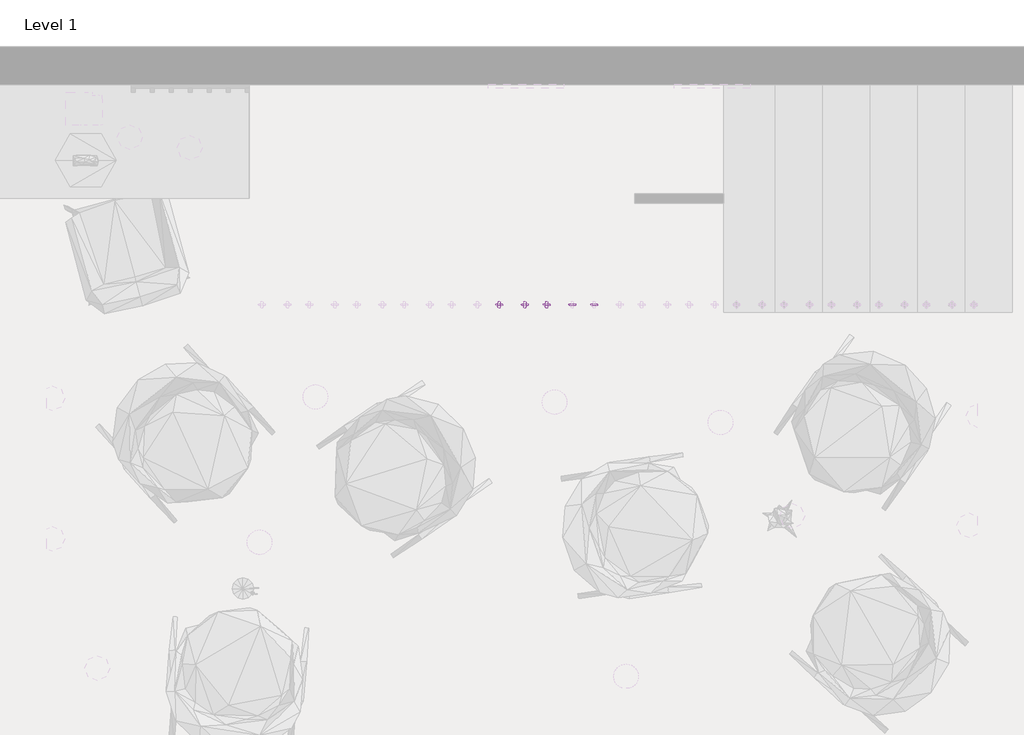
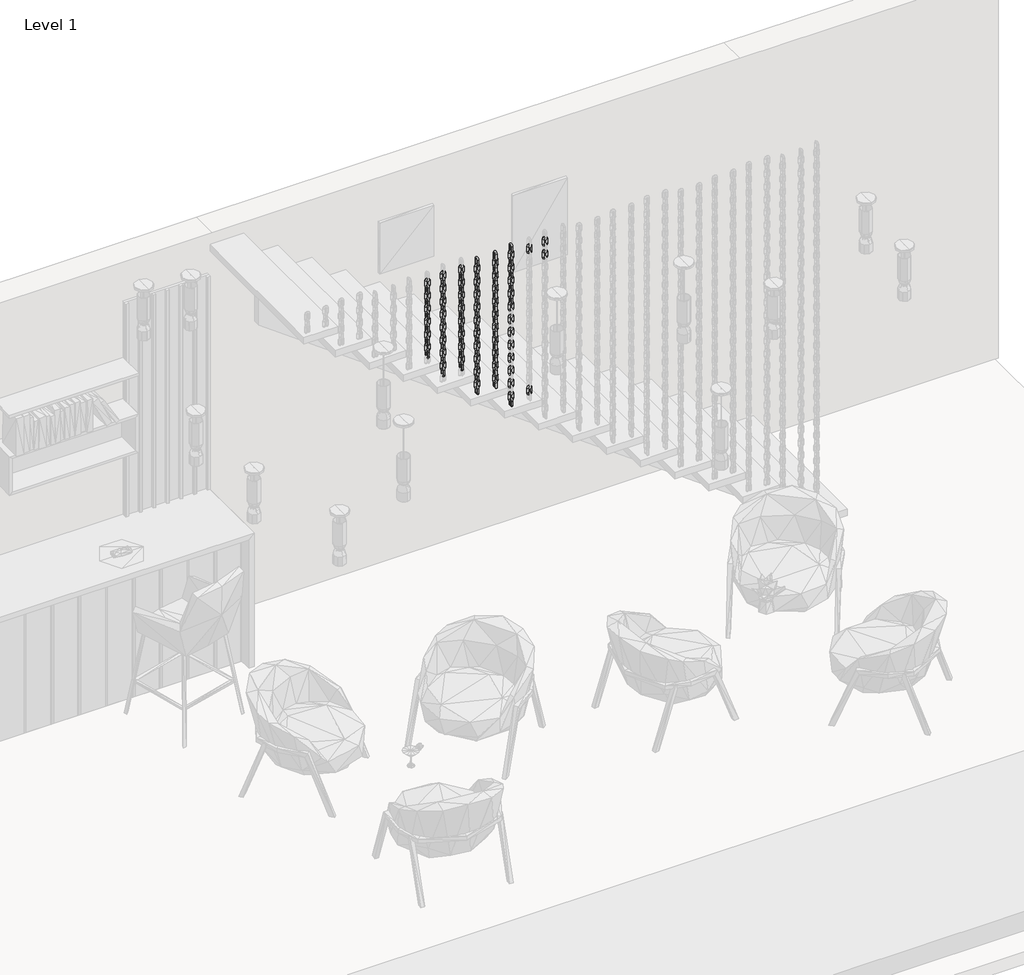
# One storey, part 5 of 12: 108 proxies.
"""IFC4 building model written with IfcOpenShell, lengths in millimetres."""

from ifc_helpers import new_model, si_unit, origin, place, context, project, spatial, transform, mapped, element, save
from components import family1_family1_50133a43, family1_family1_d3af85bb

model = new_model("IFC4")

# Units and contexts
model_context = context("Model", 3, world=origin())
ifc_project = project(units=[si_unit("LENGTHUNIT", "METRE", prefix="MILLI")], contexts=[model_context])

# Site, building, storey
site = spatial("IfcSite", under=ifc_project)
building = spatial("IfcBuilding", under=site)
storey = spatial("IfcBuildingStorey", under=building, Name="Level 1", Elevation=0.0)

# Proxies
placement = place(None, origin())
family1_family1_shape = family1_family1_50133a43(model_context)
element("IfcBuildingElementProxy", 1, Name="Family1 : Family1", ObjectType="Family1 : Family1", at=placement, inside=storey, context=model_context, shape_type="MappedRepresentation", body=[
    mapped(family1_family1_shape, transform((12615.1232124, 1139.760891, 1356.36245), x_axis=(-0.03315618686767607, 0.0, 0.9994501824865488), y_axis=(-0.9994501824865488, 0.0, -0.03315618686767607), z_axis=(0.0, -1.0, 0.0))),
])
element("IfcBuildingElementProxy", 2, Name="Family1 : Family1", ObjectType="Family1 : Family1", at=placement, inside=storey, context=model_context, shape_type="MappedRepresentation", body=[
    mapped(family1_family1_shape, transform((12615.1232124, 1139.760891, 1456.36245), x_axis=(-0.03315618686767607, 0.0, 0.9994501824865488), y_axis=(-0.9994501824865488, 0.0, -0.03315618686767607), z_axis=(0.0, -1.0, 0.0))),
])
element("IfcBuildingElementProxy", 3, Name="Family1 : Family1", ObjectType="Family1 : Family1", at=placement, inside=storey, context=model_context, shape_type="MappedRepresentation", body=[
    mapped(family1_family1_shape, transform((12615.1232124, 1139.760891, 1556.36245), x_axis=(-0.03315618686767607, 0.0, 0.9994501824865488), y_axis=(-0.9994501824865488, 0.0, -0.03315618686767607), z_axis=(0.0, -1.0, 0.0))),
])
element("IfcBuildingElementProxy", 4, Name="Family1 : Family1", ObjectType="Family1 : Family1", at=placement, inside=storey, context=model_context, shape_type="MappedRepresentation", body=[
    mapped(family1_family1_shape, transform((12615.1232124, 1139.760891, 556.36245), x_axis=(-0.03315618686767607, 0.0, 0.9994501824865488), y_axis=(-0.9994501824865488, 0.0, -0.03315618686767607), z_axis=(0.0, -1.0, 0.0))),
])
element("IfcBuildingElementProxy", 5, Name="Family1 : Family1", ObjectType="Family1 : Family1", at=placement, inside=storey, context=model_context, shape_type="MappedRepresentation", body=[
    mapped(family1_family1_shape, transform((12615.1232124, 1139.760891, 1656.36245), x_axis=(-0.03315618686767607, 0.0, 0.9994501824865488), y_axis=(-0.9994501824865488, 0.0, -0.03315618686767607), z_axis=(0.0, -1.0, 0.0))),
])
element("IfcBuildingElementProxy", 6, Name="Family1 : Family1", ObjectType="Family1 : Family1", at=placement, inside=storey, context=model_context, shape_type="MappedRepresentation", body=[
    mapped(family1_family1_shape, transform((12615.1232124, 1139.760891, 1756.36245), x_axis=(-0.03315618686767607, 0.0, 0.9994501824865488), y_axis=(-0.9994501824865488, 0.0, -0.03315618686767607), z_axis=(0.0, -1.0, 0.0))),
])
element("IfcBuildingElementProxy", 7, Name="Family1 : Family1", ObjectType="Family1 : Family1", at=placement, inside=storey, context=model_context, shape_type="MappedRepresentation", body=[
    mapped(family1_family1_shape, transform((12500.1232124, 1139.760891, 838.7153912), x_axis=(-0.033156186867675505, 0.0, 0.9994501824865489), y_axis=(-0.9994501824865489, 0.0, -0.033156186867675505), z_axis=(0.0, -1.0, 0.0))),
])
element("IfcBuildingElementProxy", 8, Name="Family1 : Family1", ObjectType="Family1 : Family1", at=placement, inside=storey, context=model_context, shape_type="MappedRepresentation", body=[
    mapped(family1_family1_shape, transform((12500.1232124, 1139.760891, 938.7153912), x_axis=(-0.033156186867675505, 0.0, 0.9994501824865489), y_axis=(-0.9994501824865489, 0.0, -0.033156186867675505), z_axis=(0.0, -1.0, 0.0))),
])
element("IfcBuildingElementProxy", 9, Name="Family1 : Family1", ObjectType="Family1 : Family1", at=placement, inside=storey, context=model_context, shape_type="MappedRepresentation", body=[
    mapped(family1_family1_shape, transform((12500.1232124, 1139.760891, 1038.7153912), x_axis=(-0.033156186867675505, 0.0, 0.9994501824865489), y_axis=(-0.9994501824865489, 0.0, -0.033156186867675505), z_axis=(0.0, -1.0, 0.0))),
])
element("IfcBuildingElementProxy", 10, Name="Family1 : Family1", ObjectType="Family1 : Family1", at=placement, inside=storey, context=model_context, shape_type="MappedRepresentation", body=[
    mapped(family1_family1_shape, transform((12500.1232124, 1139.760891, 1138.7153912), x_axis=(-0.033156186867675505, 0.0, 0.9994501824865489), y_axis=(-0.9994501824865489, 0.0, -0.033156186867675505), z_axis=(0.0, -1.0, 0.0))),
])
element("IfcBuildingElementProxy", 11, Name="Family1 : Family1", ObjectType="Family1 : Family1", at=placement, inside=storey, context=model_context, shape_type="MappedRepresentation", body=[
    mapped(family1_family1_shape, transform((12500.1232124, 1139.760891, 1238.7153912), x_axis=(-0.033156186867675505, 0.0, 0.9994501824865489), y_axis=(-0.9994501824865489, 0.0, -0.033156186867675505), z_axis=(0.0, -1.0, 0.0))),
])
element("IfcBuildingElementProxy", 12, Name="Family1 : Family1", ObjectType="Family1 : Family1", at=placement, inside=storey, context=model_context, shape_type="MappedRepresentation", body=[
    mapped(family1_family1_shape, transform((12500.1232124, 1139.760891, 1338.7153912), x_axis=(-0.033156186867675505, 0.0, 0.9994501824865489), y_axis=(-0.9994501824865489, 0.0, -0.033156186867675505), z_axis=(0.0, -1.0, 0.0))),
])
element("IfcBuildingElementProxy", 13, Name="Family1 : Family1", ObjectType="Family1 : Family1", at=placement, inside=storey, context=model_context, shape_type="MappedRepresentation", body=[
    mapped(family1_family1_shape, transform((12500.1232124, 1139.760891, 1438.7153912), x_axis=(-0.033156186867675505, 0.0, 0.9994501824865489), y_axis=(-0.9994501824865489, 0.0, -0.033156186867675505), z_axis=(0.0, -1.0, 0.0))),
])
element("IfcBuildingElementProxy", 14, Name="Family1 : Family1", ObjectType="Family1 : Family1", at=placement, inside=storey, context=model_context, shape_type="MappedRepresentation", body=[
    mapped(family1_family1_shape, transform((12500.1232124, 1139.760891, 1538.7153912), x_axis=(-0.03315618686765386, 0.0, 0.9994501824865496), y_axis=(-0.9994501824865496, 0.0, -0.03315618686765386), z_axis=(0.0, -1.0, 0.0))),
])
element("IfcBuildingElementProxy", 15, Name="Family1 : Family1", ObjectType="Family1 : Family1", at=placement, inside=storey, context=model_context, shape_type="MappedRepresentation", body=[
    mapped(family1_family1_shape, transform((12500.1232124, 1139.760891, 1638.7153912), x_axis=(-0.033156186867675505, 0.0, 0.9994501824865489), y_axis=(-0.9994501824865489, 0.0, -0.033156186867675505), z_axis=(0.0, -1.0, 0.0))),
])
element("IfcBuildingElementProxy", 16, Name="Family1 : Family1", ObjectType="Family1 : Family1", at=placement, inside=storey, context=model_context, shape_type="MappedRepresentation", body=[
    mapped(family1_family1_shape, transform((12365.1232124, 1139.760891, 838.7153912), x_axis=(-0.033156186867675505, 0.0, 0.9994501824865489), y_axis=(-0.9994501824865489, 0.0, -0.033156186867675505), z_axis=(0.0, -1.0, 0.0))),
])
element("IfcBuildingElementProxy", 17, Name="Family1 : Family1", ObjectType="Family1 : Family1", at=placement, inside=storey, context=model_context, shape_type="MappedRepresentation", body=[
    mapped(family1_family1_shape, transform((12365.1232124, 1139.760891, 938.7153912), x_axis=(-0.033156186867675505, 0.0, 0.9994501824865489), y_axis=(-0.9994501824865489, 0.0, -0.033156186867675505), z_axis=(0.0, -1.0, 0.0))),
])
element("IfcBuildingElementProxy", 18, Name="Family1 : Family1", ObjectType="Family1 : Family1", at=placement, inside=storey, context=model_context, shape_type="MappedRepresentation", body=[
    mapped(family1_family1_shape, transform((12365.1232124, 1139.760891, 1038.7153912), x_axis=(-0.033156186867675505, 0.0, 0.9994501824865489), y_axis=(-0.9994501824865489, 0.0, -0.033156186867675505), z_axis=(0.0, -1.0, 0.0))),
])
element("IfcBuildingElementProxy", 19, Name="Family1 : Family1", ObjectType="Family1 : Family1", at=placement, inside=storey, context=model_context, shape_type="MappedRepresentation", body=[
    mapped(family1_family1_shape, transform((12365.1232124, 1139.760891, 1138.7153912), x_axis=(-0.033156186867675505, 0.0, 0.9994501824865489), y_axis=(-0.9994501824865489, 0.0, -0.033156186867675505), z_axis=(0.0, -1.0, 0.0))),
])
element("IfcBuildingElementProxy", 20, Name="Family1 : Family1", ObjectType="Family1 : Family1", at=placement, inside=storey, context=model_context, shape_type="MappedRepresentation", body=[
    mapped(family1_family1_shape, transform((12365.1232124, 1139.760891, 1238.7153912), x_axis=(-0.033156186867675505, 0.0, 0.9994501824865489), y_axis=(-0.9994501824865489, 0.0, -0.033156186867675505), z_axis=(0.0, -1.0, 0.0))),
])
element("IfcBuildingElementProxy", 21, Name="Family1 : Family1", ObjectType="Family1 : Family1", at=placement, inside=storey, context=model_context, shape_type="MappedRepresentation", body=[
    mapped(family1_family1_shape, transform((12365.1232124, 1139.760891, 1338.7153912), x_axis=(-0.033156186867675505, 0.0, 0.9994501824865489), y_axis=(-0.9994501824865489, 0.0, -0.033156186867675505), z_axis=(0.0, -1.0, 0.0))),
])
element("IfcBuildingElementProxy", 22, Name="Family1 : Family1", ObjectType="Family1 : Family1", at=placement, inside=storey, context=model_context, shape_type="MappedRepresentation", body=[
    mapped(family1_family1_shape, transform((12365.1232124, 1139.760891, 1438.7153912), x_axis=(-0.033156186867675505, 0.0, 0.9994501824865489), y_axis=(-0.9994501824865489, 0.0, -0.033156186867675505), z_axis=(0.0, -1.0, 0.0))),
])
element("IfcBuildingElementProxy", 23, Name="Family1 : Family1", ObjectType="Family1 : Family1", at=placement, inside=storey, context=model_context, shape_type="MappedRepresentation", body=[
    mapped(family1_family1_shape, transform((12365.1232124, 1139.760891, 1538.7153912), x_axis=(-0.03315618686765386, 0.0, 0.9994501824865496), y_axis=(-0.9994501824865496, 0.0, -0.03315618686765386), z_axis=(0.0, -1.0, 0.0))),
])
element("IfcBuildingElementProxy", 24, Name="Family1 : Family1", ObjectType="Family1 : Family1", at=placement, inside=storey, context=model_context, shape_type="MappedRepresentation", body=[
    mapped(family1_family1_shape, transform((12365.1232124, 1139.760891, 1638.7153912), x_axis=(-0.033156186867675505, 0.0, 0.9994501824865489), y_axis=(-0.9994501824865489, 0.0, -0.033156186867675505), z_axis=(0.0, -1.0, 0.0))),
])
element("IfcBuildingElementProxy", 25, Name="Family1 : Family1", ObjectType="Family1 : Family1", at=placement, inside=storey, context=model_context, shape_type="MappedRepresentation", body=[
    mapped(family1_family1_shape, transform((12250.1232124, 1139.760891, 971.0683324), x_axis=(-0.033156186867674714, 0.0, 0.9994501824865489), y_axis=(-0.9994501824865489, 0.0, -0.033156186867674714), z_axis=(0.0, -1.0, 0.0))),
])
element("IfcBuildingElementProxy", 26, Name="Family1 : Family1", ObjectType="Family1 : Family1", at=placement, inside=storey, context=model_context, shape_type="MappedRepresentation", body=[
    mapped(family1_family1_shape, transform((12250.1232124, 1139.760891, 1071.0683324), x_axis=(-0.033156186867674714, 0.0, 0.9994501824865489), y_axis=(-0.9994501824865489, 0.0, -0.033156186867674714), z_axis=(0.0, -1.0, 0.0))),
])
element("IfcBuildingElementProxy", 27, Name="Family1 : Family1", ObjectType="Family1 : Family1", at=placement, inside=storey, context=model_context, shape_type="MappedRepresentation", body=[
    mapped(family1_family1_shape, transform((12250.1232124, 1139.760891, 1171.0683324), x_axis=(-0.033156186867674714, 0.0, 0.9994501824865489), y_axis=(-0.9994501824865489, 0.0, -0.033156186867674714), z_axis=(0.0, -1.0, 0.0))),
])
element("IfcBuildingElementProxy", 28, Name="Family1 : Family1", ObjectType="Family1 : Family1", at=placement, inside=storey, context=model_context, shape_type="MappedRepresentation", body=[
    mapped(family1_family1_shape, transform((12250.1232124, 1139.760891, 1271.0683324), x_axis=(-0.033156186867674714, 0.0, 0.9994501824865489), y_axis=(-0.9994501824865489, 0.0, -0.033156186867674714), z_axis=(0.0, -1.0, 0.0))),
])
element("IfcBuildingElementProxy", 29, Name="Family1 : Family1", ObjectType="Family1 : Family1", at=placement, inside=storey, context=model_context, shape_type="MappedRepresentation", body=[
    mapped(family1_family1_shape, transform((12250.1232124, 1139.760891, 1371.0683324), x_axis=(-0.033156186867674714, 0.0, 0.9994501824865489), y_axis=(-0.9994501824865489, 0.0, -0.033156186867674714), z_axis=(0.0, -1.0, 0.0))),
])
element("IfcBuildingElementProxy", 30, Name="Family1 : Family1", ObjectType="Family1 : Family1", at=placement, inside=storey, context=model_context, shape_type="MappedRepresentation", body=[
    mapped(family1_family1_shape, transform((12250.1232124, 1139.760891, 1471.0683324), x_axis=(-0.033156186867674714, 0.0, 0.9994501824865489), y_axis=(-0.9994501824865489, 0.0, -0.033156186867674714), z_axis=(0.0, -1.0, 0.0))),
])
element("IfcBuildingElementProxy", 31, Name="Family1 : Family1", ObjectType="Family1 : Family1", at=placement, inside=storey, context=model_context, shape_type="MappedRepresentation", body=[
    mapped(family1_family1_shape, transform((12250.1232124, 1139.760891, 1571.0683324), x_axis=(-0.03315618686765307, 0.0, 0.9994501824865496), y_axis=(-0.9994501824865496, 0.0, -0.03315618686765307), z_axis=(0.0, -1.0, 0.0))),
])
element("IfcBuildingElementProxy", 32, Name="Family1 : Family1", ObjectType="Family1 : Family1", at=placement, inside=storey, context=model_context, shape_type="MappedRepresentation", body=[
    mapped(family1_family1_shape, transform((12250.1232124, 1139.760891, 1671.0683324), x_axis=(-0.033156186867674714, 0.0, 0.9994501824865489), y_axis=(-0.9994501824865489, 0.0, -0.033156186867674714), z_axis=(0.0, -1.0, 0.0))),
])
element("IfcBuildingElementProxy", 33, Name="Family1 : Family1", ObjectType="Family1 : Family1", at=placement, inside=storey, context=model_context, shape_type="MappedRepresentation", body=[
    mapped(family1_family1_shape, transform((12115.1232124, 1139.760891, 971.0683324), x_axis=(-0.033156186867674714, 0.0, 0.9994501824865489), y_axis=(-0.9994501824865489, 0.0, -0.033156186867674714), z_axis=(0.0, -1.0, 0.0))),
])
element("IfcBuildingElementProxy", 34, Name="Family1 : Family1", ObjectType="Family1 : Family1", at=placement, inside=storey, context=model_context, shape_type="MappedRepresentation", body=[
    mapped(family1_family1_shape, transform((12115.1232124, 1139.760891, 1071.0683324), x_axis=(-0.033156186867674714, 0.0, 0.9994501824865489), y_axis=(-0.9994501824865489, 0.0, -0.033156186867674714), z_axis=(0.0, -1.0, 0.0))),
])
element("IfcBuildingElementProxy", 35, Name="Family1 : Family1", ObjectType="Family1 : Family1", at=placement, inside=storey, context=model_context, shape_type="MappedRepresentation", body=[
    mapped(family1_family1_shape, transform((12115.1232124, 1139.760891, 1171.0683324), x_axis=(-0.033156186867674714, 0.0, 0.9994501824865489), y_axis=(-0.9994501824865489, 0.0, -0.033156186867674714), z_axis=(0.0, -1.0, 0.0))),
])
element("IfcBuildingElementProxy", 36, Name="Family1 : Family1", ObjectType="Family1 : Family1", at=placement, inside=storey, context=model_context, shape_type="MappedRepresentation", body=[
    mapped(family1_family1_shape, transform((12115.1232124, 1139.760891, 1271.0683324), x_axis=(-0.033156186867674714, 0.0, 0.9994501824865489), y_axis=(-0.9994501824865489, 0.0, -0.033156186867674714), z_axis=(0.0, -1.0, 0.0))),
])
element("IfcBuildingElementProxy", 37, Name="Family1 : Family1", ObjectType="Family1 : Family1", at=placement, inside=storey, context=model_context, shape_type="MappedRepresentation", body=[
    mapped(family1_family1_shape, transform((12115.1232124, 1139.760891, 1371.0683324), x_axis=(-0.033156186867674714, 0.0, 0.9994501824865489), y_axis=(-0.9994501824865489, 0.0, -0.033156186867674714), z_axis=(0.0, -1.0, 0.0))),
])
element("IfcBuildingElementProxy", 38, Name="Family1 : Family1", ObjectType="Family1 : Family1", at=placement, inside=storey, context=model_context, shape_type="MappedRepresentation", body=[
    mapped(family1_family1_shape, transform((12115.1232124, 1139.760891, 1471.0683324), x_axis=(-0.033156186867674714, 0.0, 0.9994501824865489), y_axis=(-0.9994501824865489, 0.0, -0.033156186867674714), z_axis=(0.0, -1.0, 0.0))),
])
element("IfcBuildingElementProxy", 39, Name="Family1 : Family1", ObjectType="Family1 : Family1", at=placement, inside=storey, context=model_context, shape_type="MappedRepresentation", body=[
    mapped(family1_family1_shape, transform((12115.1232124, 1139.760891, 1571.0683324), x_axis=(-0.03315618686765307, 0.0, 0.9994501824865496), y_axis=(-0.9994501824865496, 0.0, -0.03315618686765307), z_axis=(0.0, -1.0, 0.0))),
])
element("IfcBuildingElementProxy", 40, Name="Family1 : Family1", ObjectType="Family1 : Family1", at=placement, inside=storey, context=model_context, shape_type="MappedRepresentation", body=[
    mapped(family1_family1_shape, transform((12115.1232124, 1139.760891, 1671.0683324), x_axis=(-0.033156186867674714, 0.0, 0.9994501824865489), y_axis=(-0.9994501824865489, 0.0, -0.033156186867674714), z_axis=(0.0, -1.0, 0.0))),
])
element("IfcBuildingElementProxy", 41, Name="Family1 : Family1", ObjectType="Family1 : Family1", at=placement, inside=storey, context=model_context, shape_type="MappedRepresentation", body=[
    mapped(family1_family1_shape, transform((12000.1232124, 1139.760891, 1153.4212736), x_axis=(-0.03315618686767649, 0.0, 0.9994501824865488), y_axis=(-0.9994501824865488, 0.0, -0.03315618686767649), z_axis=(0.0, -1.0, 0.0))),
])
element("IfcBuildingElementProxy", 42, Name="Family1 : Family1", ObjectType="Family1 : Family1", at=placement, inside=storey, context=model_context, shape_type="MappedRepresentation", body=[
    mapped(family1_family1_shape, transform((12000.1232124, 1139.760891, 1253.4212736), x_axis=(-0.03315618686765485, 0.0, 0.9994501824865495), y_axis=(-0.9994501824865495, 0.0, -0.03315618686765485), z_axis=(0.0, -1.0, 0.0))),
])
element("IfcBuildingElementProxy", 43, Name="Family1 : Family1", ObjectType="Family1 : Family1", at=placement, inside=storey, context=model_context, shape_type="MappedRepresentation", body=[
    mapped(family1_family1_shape, transform((12000.1232124, 1139.760891, 1353.4212736), x_axis=(-0.03315618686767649, 0.0, 0.9994501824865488), y_axis=(-0.9994501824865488, 0.0, -0.03315618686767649), z_axis=(0.0, -1.0, 0.0))),
])
element("IfcBuildingElementProxy", 44, Name="Family1 : Family1", ObjectType="Family1 : Family1", at=placement, inside=storey, context=model_context, shape_type="MappedRepresentation", body=[
    mapped(family1_family1_shape, transform((12000.1232124, 1139.760891, 1453.4212736), x_axis=(-0.03315618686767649, 0.0, 0.9994501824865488), y_axis=(-0.9994501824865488, 0.0, -0.03315618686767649), z_axis=(0.0, -1.0, 0.0))),
])
element("IfcBuildingElementProxy", 45, Name="Family1 : Family1", ObjectType="Family1 : Family1", at=placement, inside=storey, context=model_context, shape_type="MappedRepresentation", body=[
    mapped(family1_family1_shape, transform((12000.1232124, 1139.760891, 1553.4212736), x_axis=(-0.03315618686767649, 0.0, 0.9994501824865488), y_axis=(-0.9994501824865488, 0.0, -0.03315618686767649), z_axis=(0.0, -1.0, 0.0))),
])
element("IfcBuildingElementProxy", 46, Name="Family1 : Family1", ObjectType="Family1 : Family1", at=placement, inside=storey, context=model_context, shape_type="MappedRepresentation", body=[
    mapped(family1_family1_shape, transform((12000.1232124, 1139.760891, 1653.4212736), x_axis=(-0.03315618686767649, 0.0, 0.9994501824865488), y_axis=(-0.9994501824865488, 0.0, -0.03315618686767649), z_axis=(0.0, -1.0, 0.0))),
])
element("IfcBuildingElementProxy", 47, Name="Family1 : Family1", ObjectType="Family1 : Family1", at=placement, inside=storey, context=model_context, shape_type="MappedRepresentation", body=[
    mapped(family1_family1_shape, transform((12500.1232124, 1139.760891, 738.7153912), x_axis=(-0.033156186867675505, 0.0, 0.9994501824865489), y_axis=(-0.9994501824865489, 0.0, -0.033156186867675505), z_axis=(0.0, -1.0, 0.0))),
])
element("IfcBuildingElementProxy", 48, Name="Family1 : Family1", ObjectType="Family1 : Family1", at=placement, inside=storey, context=model_context, shape_type="MappedRepresentation", body=[
    mapped(family1_family1_shape, transform((12500.1232124, 1139.760891, 1738.7153912), x_axis=(-0.033156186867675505, 0.0, 0.9994501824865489), y_axis=(-0.9994501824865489, 0.0, -0.033156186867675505), z_axis=(0.0, -1.0, 0.0))),
])
element("IfcBuildingElementProxy", 49, Name="Family1 : Family1", ObjectType="Family1 : Family1", at=placement, inside=storey, context=model_context, shape_type="MappedRepresentation", body=[
    mapped(family1_family1_shape, transform((12365.1232124, 1139.760891, 738.7153912), x_axis=(-0.033156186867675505, 0.0, 0.9994501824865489), y_axis=(-0.9994501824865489, 0.0, -0.033156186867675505), z_axis=(0.0, -1.0, 0.0))),
])
element("IfcBuildingElementProxy", 50, Name="Family1 : Family1", ObjectType="Family1 : Family1", at=placement, inside=storey, context=model_context, shape_type="MappedRepresentation", body=[
    mapped(family1_family1_shape, transform((12365.1232124, 1139.760891, 1738.7153912), x_axis=(-0.033156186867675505, 0.0, 0.9994501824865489), y_axis=(-0.9994501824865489, 0.0, -0.033156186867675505), z_axis=(0.0, -1.0, 0.0))),
])
family1_family1_2_shape = family1_family1_d3af85bb(model_context)
element("IfcBuildingElementProxy", 51, Name="Family1 : Family1", ObjectType="Family1 : Family1", at=placement, inside=storey, context=model_context, shape_type="MappedRepresentation", body=[
    mapped(family1_family1_2_shape, transform((12615.1232124, 1139.760891, 706.36245), x_axis=(-0.03315618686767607, 0.0, 0.9994501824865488), y_axis=(-0.9994501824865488, 0.0, -0.03315618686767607), z_axis=(0.0, -1.0, 0.0))),
])
element("IfcBuildingElementProxy", 52, Name="Family1 : Family1", ObjectType="Family1 : Family1", at=placement, inside=storey, context=model_context, shape_type="MappedRepresentation", body=[
    mapped(family1_family1_2_shape, transform((12615.1232124, 1139.760891, 806.36245), x_axis=(-0.03315618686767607, 0.0, 0.9994501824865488), y_axis=(-0.9994501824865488, 0.0, -0.03315618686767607), z_axis=(0.0, -1.0, 0.0))),
])
element("IfcBuildingElementProxy", 53, Name="Family1 : Family1", ObjectType="Family1 : Family1", at=placement, inside=storey, context=model_context, shape_type="MappedRepresentation", body=[
    mapped(family1_family1_2_shape, transform((12615.1232124, 1139.760891, 906.36245), x_axis=(-0.03315618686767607, 0.0, 0.9994501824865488), y_axis=(-0.9994501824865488, 0.0, -0.03315618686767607), z_axis=(0.0, -1.0, 0.0))),
])
element("IfcBuildingElementProxy", 54, Name="Family1 : Family1", ObjectType="Family1 : Family1", at=placement, inside=storey, context=model_context, shape_type="MappedRepresentation", body=[
    mapped(family1_family1_2_shape, transform((12615.1232124, 1139.760891, 1006.36245), x_axis=(-0.03315618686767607, 0.0, 0.9994501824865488), y_axis=(-0.9994501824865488, 0.0, -0.03315618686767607), z_axis=(0.0, -1.0, 0.0))),
])
element("IfcBuildingElementProxy", 55, Name="Family1 : Family1", ObjectType="Family1 : Family1", at=placement, inside=storey, context=model_context, shape_type="MappedRepresentation", body=[
    mapped(family1_family1_2_shape, transform((12615.1232124, 1139.760891, 1106.36245), x_axis=(-0.03315618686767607, 0.0, 0.9994501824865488), y_axis=(-0.9994501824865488, 0.0, -0.03315618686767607), z_axis=(0.0, -1.0, 0.0))),
])
element("IfcBuildingElementProxy", 56, Name="Family1 : Family1", ObjectType="Family1 : Family1", at=placement, inside=storey, context=model_context, shape_type="MappedRepresentation", body=[
    mapped(family1_family1_2_shape, transform((12615.1232124, 1139.760891, 1206.36245), x_axis=(-0.03315618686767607, 0.0, 0.9994501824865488), y_axis=(-0.9994501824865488, 0.0, -0.03315618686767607), z_axis=(0.0, -1.0, 0.0))),
])
element("IfcBuildingElementProxy", 57, Name="Family1 : Family1", ObjectType="Family1 : Family1", at=placement, inside=storey, context=model_context, shape_type="MappedRepresentation", body=[
    mapped(family1_family1_2_shape, transform((12615.1232124, 1139.760891, 1306.36245), x_axis=(-0.03315618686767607, 0.0, 0.9994501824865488), y_axis=(-0.9994501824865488, 0.0, -0.03315618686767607), z_axis=(0.0, -1.0, 0.0))),
])
element("IfcBuildingElementProxy", 58, Name="Family1 : Family1", ObjectType="Family1 : Family1", at=placement, inside=storey, context=model_context, shape_type="MappedRepresentation", body=[
    mapped(family1_family1_2_shape, transform((12615.1232124, 1139.760891, 1406.36245), x_axis=(-0.03315618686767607, 0.0, 0.9994501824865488), y_axis=(-0.9994501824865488, 0.0, -0.03315618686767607), z_axis=(0.0, -1.0, 0.0))),
])
element("IfcBuildingElementProxy", 59, Name="Family1 : Family1", ObjectType="Family1 : Family1", at=placement, inside=storey, context=model_context, shape_type="MappedRepresentation", body=[
    mapped(family1_family1_2_shape, transform((12615.1232124, 1139.760891, 1506.36245), x_axis=(-0.033156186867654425, 0.0, 0.9994501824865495), y_axis=(-0.9994501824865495, 0.0, -0.033156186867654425), z_axis=(0.0, -1.0, 0.0))),
])
element("IfcBuildingElementProxy", 60, Name="Family1 : Family1", ObjectType="Family1 : Family1", at=placement, inside=storey, context=model_context, shape_type="MappedRepresentation", body=[
    mapped(family1_family1_2_shape, transform((12615.1232124, 1139.760891, 1606.36245), x_axis=(-0.03315618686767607, 0.0, 0.9994501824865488), y_axis=(-0.9994501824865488, 0.0, -0.03315618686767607), z_axis=(0.0, -1.0, 0.0))),
])
element("IfcBuildingElementProxy", 61, Name="Family1 : Family1", ObjectType="Family1 : Family1", at=placement, inside=storey, context=model_context, shape_type="MappedRepresentation", body=[
    mapped(family1_family1_2_shape, transform((12500.1232124, 1139.760891, 788.7153912), x_axis=(-0.033156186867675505, 0.0, 0.9994501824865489), y_axis=(-0.9994501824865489, 0.0, -0.033156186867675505), z_axis=(0.0, -1.0, 0.0))),
])
element("IfcBuildingElementProxy", 62, Name="Family1 : Family1", ObjectType="Family1 : Family1", at=placement, inside=storey, context=model_context, shape_type="MappedRepresentation", body=[
    mapped(family1_family1_2_shape, transform((12500.1232124, 1139.760891, 888.7153912), x_axis=(-0.033156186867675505, 0.0, 0.9994501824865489), y_axis=(-0.9994501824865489, 0.0, -0.033156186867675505), z_axis=(0.0, -1.0, 0.0))),
])
element("IfcBuildingElementProxy", 63, Name="Family1 : Family1", ObjectType="Family1 : Family1", at=placement, inside=storey, context=model_context, shape_type="MappedRepresentation", body=[
    mapped(family1_family1_2_shape, transform((12500.1232124, 1139.760891, 988.7153912), x_axis=(-0.03315618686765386, 0.0, 0.9994501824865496), y_axis=(-0.9994501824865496, 0.0, -0.03315618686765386), z_axis=(0.0, -1.0, 0.0))),
])
element("IfcBuildingElementProxy", 64, Name="Family1 : Family1", ObjectType="Family1 : Family1", at=placement, inside=storey, context=model_context, shape_type="MappedRepresentation", body=[
    mapped(family1_family1_2_shape, transform((12500.1232124, 1139.760891, 1088.7153912), x_axis=(-0.033156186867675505, 0.0, 0.9994501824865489), y_axis=(-0.9994501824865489, 0.0, -0.033156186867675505), z_axis=(0.0, -1.0, 0.0))),
])
element("IfcBuildingElementProxy", 65, Name="Family1 : Family1", ObjectType="Family1 : Family1", at=placement, inside=storey, context=model_context, shape_type="MappedRepresentation", body=[
    mapped(family1_family1_2_shape, transform((12500.1232124, 1139.760891, 1188.7153912), x_axis=(-0.033156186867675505, 0.0, 0.9994501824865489), y_axis=(-0.9994501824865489, 0.0, -0.033156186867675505), z_axis=(0.0, -1.0, 0.0))),
])
element("IfcBuildingElementProxy", 66, Name="Family1 : Family1", ObjectType="Family1 : Family1", at=placement, inside=storey, context=model_context, shape_type="MappedRepresentation", body=[
    mapped(family1_family1_2_shape, transform((12500.1232124, 1139.760891, 1288.7153912), x_axis=(-0.033156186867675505, 0.0, 0.9994501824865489), y_axis=(-0.9994501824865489, 0.0, -0.033156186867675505), z_axis=(0.0, -1.0, 0.0))),
])
element("IfcBuildingElementProxy", 67, Name="Family1 : Family1", ObjectType="Family1 : Family1", at=placement, inside=storey, context=model_context, shape_type="MappedRepresentation", body=[
    mapped(family1_family1_2_shape, transform((12500.1232124, 1139.760891, 1388.7153912), x_axis=(-0.033156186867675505, 0.0, 0.9994501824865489), y_axis=(-0.9994501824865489, 0.0, -0.033156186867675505), z_axis=(0.0, -1.0, 0.0))),
])
element("IfcBuildingElementProxy", 68, Name="Family1 : Family1", ObjectType="Family1 : Family1", at=placement, inside=storey, context=model_context, shape_type="MappedRepresentation", body=[
    mapped(family1_family1_2_shape, transform((12500.1232124, 1139.760891, 1488.7153912), x_axis=(-0.033156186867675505, 0.0, 0.9994501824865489), y_axis=(-0.9994501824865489, 0.0, -0.033156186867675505), z_axis=(0.0, -1.0, 0.0))),
])
element("IfcBuildingElementProxy", 69, Name="Family1 : Family1", ObjectType="Family1 : Family1", at=placement, inside=storey, context=model_context, shape_type="MappedRepresentation", body=[
    mapped(family1_family1_2_shape, transform((12500.1232124, 1139.760891, 1588.7153912), x_axis=(-0.033156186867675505, 0.0, 0.9994501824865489), y_axis=(-0.9994501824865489, 0.0, -0.033156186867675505), z_axis=(0.0, -1.0, 0.0))),
])
element("IfcBuildingElementProxy", 70, Name="Family1 : Family1", ObjectType="Family1 : Family1", at=placement, inside=storey, context=model_context, shape_type="MappedRepresentation", body=[
    mapped(family1_family1_2_shape, transform((12500.1232124, 1139.760891, 1688.7153912), x_axis=(-0.033156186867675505, 0.0, 0.9994501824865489), y_axis=(-0.9994501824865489, 0.0, -0.033156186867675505), z_axis=(0.0, -1.0, 0.0))),
])
element("IfcBuildingElementProxy", 71, Name="Family1 : Family1", ObjectType="Family1 : Family1", at=placement, inside=storey, context=model_context, shape_type="MappedRepresentation", body=[
    mapped(family1_family1_2_shape, transform((12365.1232124, 1139.760891, 788.7153912), x_axis=(-0.033156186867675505, 0.0, 0.9994501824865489), y_axis=(-0.9994501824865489, 0.0, -0.033156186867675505), z_axis=(0.0, -1.0, 0.0))),
])
element("IfcBuildingElementProxy", 72, Name="Family1 : Family1", ObjectType="Family1 : Family1", at=placement, inside=storey, context=model_context, shape_type="MappedRepresentation", body=[
    mapped(family1_family1_2_shape, transform((12365.1232124, 1139.760891, 888.7153912), x_axis=(-0.033156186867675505, 0.0, 0.9994501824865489), y_axis=(-0.9994501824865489, 0.0, -0.033156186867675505), z_axis=(0.0, -1.0, 0.0))),
])
element("IfcBuildingElementProxy", 73, Name="Family1 : Family1", ObjectType="Family1 : Family1", at=placement, inside=storey, context=model_context, shape_type="MappedRepresentation", body=[
    mapped(family1_family1_2_shape, transform((12365.1232124, 1139.760891, 988.7153912), x_axis=(-0.03315618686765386, 0.0, 0.9994501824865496), y_axis=(-0.9994501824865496, 0.0, -0.03315618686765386), z_axis=(0.0, -1.0, 0.0))),
])
element("IfcBuildingElementProxy", 74, Name="Family1 : Family1", ObjectType="Family1 : Family1", at=placement, inside=storey, context=model_context, shape_type="MappedRepresentation", body=[
    mapped(family1_family1_2_shape, transform((12365.1232124, 1139.760891, 1088.7153912), x_axis=(-0.033156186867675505, 0.0, 0.9994501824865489), y_axis=(-0.9994501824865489, 0.0, -0.033156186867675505), z_axis=(0.0, -1.0, 0.0))),
])
element("IfcBuildingElementProxy", 75, Name="Family1 : Family1", ObjectType="Family1 : Family1", at=placement, inside=storey, context=model_context, shape_type="MappedRepresentation", body=[
    mapped(family1_family1_2_shape, transform((12365.1232124, 1139.760891, 1188.7153912), x_axis=(-0.033156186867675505, 0.0, 0.9994501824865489), y_axis=(-0.9994501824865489, 0.0, -0.033156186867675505), z_axis=(0.0, -1.0, 0.0))),
])
element("IfcBuildingElementProxy", 76, Name="Family1 : Family1", ObjectType="Family1 : Family1", at=placement, inside=storey, context=model_context, shape_type="MappedRepresentation", body=[
    mapped(family1_family1_2_shape, transform((12365.1232124, 1139.760891, 1288.7153912), x_axis=(-0.033156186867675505, 0.0, 0.9994501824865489), y_axis=(-0.9994501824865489, 0.0, -0.033156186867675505), z_axis=(0.0, -1.0, 0.0))),
])
element("IfcBuildingElementProxy", 77, Name="Family1 : Family1", ObjectType="Family1 : Family1", at=placement, inside=storey, context=model_context, shape_type="MappedRepresentation", body=[
    mapped(family1_family1_2_shape, transform((12365.1232124, 1139.760891, 1388.7153912), x_axis=(-0.033156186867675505, 0.0, 0.9994501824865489), y_axis=(-0.9994501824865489, 0.0, -0.033156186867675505), z_axis=(0.0, -1.0, 0.0))),
])
element("IfcBuildingElementProxy", 78, Name="Family1 : Family1", ObjectType="Family1 : Family1", at=placement, inside=storey, context=model_context, shape_type="MappedRepresentation", body=[
    mapped(family1_family1_2_shape, transform((12365.1232124, 1139.760891, 1488.7153912), x_axis=(-0.033156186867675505, 0.0, 0.9994501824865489), y_axis=(-0.9994501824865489, 0.0, -0.033156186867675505), z_axis=(0.0, -1.0, 0.0))),
])
element("IfcBuildingElementProxy", 79, Name="Family1 : Family1", ObjectType="Family1 : Family1", at=placement, inside=storey, context=model_context, shape_type="MappedRepresentation", body=[
    mapped(family1_family1_2_shape, transform((12365.1232124, 1139.760891, 1588.7153912), x_axis=(-0.033156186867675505, 0.0, 0.9994501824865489), y_axis=(-0.9994501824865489, 0.0, -0.033156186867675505), z_axis=(0.0, -1.0, 0.0))),
])
element("IfcBuildingElementProxy", 80, Name="Family1 : Family1", ObjectType="Family1 : Family1", at=placement, inside=storey, context=model_context, shape_type="MappedRepresentation", body=[
    mapped(family1_family1_2_shape, transform((12365.1232124, 1139.760891, 1688.7153912), x_axis=(-0.033156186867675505, 0.0, 0.9994501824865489), y_axis=(-0.9994501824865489, 0.0, -0.033156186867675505), z_axis=(0.0, -1.0, 0.0))),
])
element("IfcBuildingElementProxy", 81, Name="Family1 : Family1", ObjectType="Family1 : Family1", at=placement, inside=storey, context=model_context, shape_type="MappedRepresentation", body=[
    mapped(family1_family1_2_shape, transform((12250.1232124, 1139.760891, 1021.0683324), x_axis=(-0.033156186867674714, 0.0, 0.9994501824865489), y_axis=(-0.9994501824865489, 0.0, -0.033156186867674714), z_axis=(0.0, -1.0, 0.0))),
])
element("IfcBuildingElementProxy", 82, Name="Family1 : Family1", ObjectType="Family1 : Family1", at=placement, inside=storey, context=model_context, shape_type="MappedRepresentation", body=[
    mapped(family1_family1_2_shape, transform((12250.1232124, 1139.760891, 1121.0683324), x_axis=(-0.03315618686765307, 0.0, 0.9994501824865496), y_axis=(-0.9994501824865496, 0.0, -0.03315618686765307), z_axis=(0.0, -1.0, 0.0))),
])
element("IfcBuildingElementProxy", 83, Name="Family1 : Family1", ObjectType="Family1 : Family1", at=placement, inside=storey, context=model_context, shape_type="MappedRepresentation", body=[
    mapped(family1_family1_2_shape, transform((12250.1232124, 1139.760891, 1221.0683324), x_axis=(-0.033156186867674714, 0.0, 0.9994501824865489), y_axis=(-0.9994501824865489, 0.0, -0.033156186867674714), z_axis=(0.0, -1.0, 0.0))),
])
element("IfcBuildingElementProxy", 84, Name="Family1 : Family1", ObjectType="Family1 : Family1", at=placement, inside=storey, context=model_context, shape_type="MappedRepresentation", body=[
    mapped(family1_family1_2_shape, transform((12250.1232124, 1139.760891, 1321.0683324), x_axis=(-0.033156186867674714, 0.0, 0.9994501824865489), y_axis=(-0.9994501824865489, 0.0, -0.033156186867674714), z_axis=(0.0, -1.0, 0.0))),
])
element("IfcBuildingElementProxy", 85, Name="Family1 : Family1", ObjectType="Family1 : Family1", at=placement, inside=storey, context=model_context, shape_type="MappedRepresentation", body=[
    mapped(family1_family1_2_shape, transform((12250.1232124, 1139.760891, 1421.0683324), x_axis=(-0.033156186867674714, 0.0, 0.9994501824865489), y_axis=(-0.9994501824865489, 0.0, -0.033156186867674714), z_axis=(0.0, -1.0, 0.0))),
])
element("IfcBuildingElementProxy", 86, Name="Family1 : Family1", ObjectType="Family1 : Family1", at=placement, inside=storey, context=model_context, shape_type="MappedRepresentation", body=[
    mapped(family1_family1_2_shape, transform((12250.1232124, 1139.760891, 1521.0683324), x_axis=(-0.033156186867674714, 0.0, 0.9994501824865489), y_axis=(-0.9994501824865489, 0.0, -0.033156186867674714), z_axis=(0.0, -1.0, 0.0))),
])
element("IfcBuildingElementProxy", 87, Name="Family1 : Family1", ObjectType="Family1 : Family1", at=placement, inside=storey, context=model_context, shape_type="MappedRepresentation", body=[
    mapped(family1_family1_2_shape, transform((12250.1232124, 1139.760891, 1621.0683324), x_axis=(-0.033156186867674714, 0.0, 0.9994501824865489), y_axis=(-0.9994501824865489, 0.0, -0.033156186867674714), z_axis=(0.0, -1.0, 0.0))),
])
element("IfcBuildingElementProxy", 88, Name="Family1 : Family1", ObjectType="Family1 : Family1", at=placement, inside=storey, context=model_context, shape_type="MappedRepresentation", body=[
    mapped(family1_family1_2_shape, transform((12250.1232124, 1139.760891, 1721.0683324), x_axis=(-0.033156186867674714, 0.0, 0.9994501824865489), y_axis=(-0.9994501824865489, 0.0, -0.033156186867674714), z_axis=(0.0, -1.0, 0.0))),
])
element("IfcBuildingElementProxy", 89, Name="Family1 : Family1", ObjectType="Family1 : Family1", at=placement, inside=storey, context=model_context, shape_type="MappedRepresentation", body=[
    mapped(family1_family1_2_shape, transform((12115.1232124, 1139.760891, 1021.0683324), x_axis=(-0.033156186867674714, 0.0, 0.9994501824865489), y_axis=(-0.9994501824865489, 0.0, -0.033156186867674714), z_axis=(0.0, -1.0, 0.0))),
])
element("IfcBuildingElementProxy", 90, Name="Family1 : Family1", ObjectType="Family1 : Family1", at=placement, inside=storey, context=model_context, shape_type="MappedRepresentation", body=[
    mapped(family1_family1_2_shape, transform((12115.1232124, 1139.760891, 1121.0683324), x_axis=(-0.03315618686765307, 0.0, 0.9994501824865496), y_axis=(-0.9994501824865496, 0.0, -0.03315618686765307), z_axis=(0.0, -1.0, 0.0))),
])
element("IfcBuildingElementProxy", 91, Name="Family1 : Family1", ObjectType="Family1 : Family1", at=placement, inside=storey, context=model_context, shape_type="MappedRepresentation", body=[
    mapped(family1_family1_2_shape, transform((12115.1232124, 1139.760891, 1221.0683324), x_axis=(-0.033156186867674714, 0.0, 0.9994501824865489), y_axis=(-0.9994501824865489, 0.0, -0.033156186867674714), z_axis=(0.0, -1.0, 0.0))),
])
element("IfcBuildingElementProxy", 92, Name="Family1 : Family1", ObjectType="Family1 : Family1", at=placement, inside=storey, context=model_context, shape_type="MappedRepresentation", body=[
    mapped(family1_family1_2_shape, transform((12115.1232124, 1139.760891, 1321.0683324), x_axis=(-0.033156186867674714, 0.0, 0.9994501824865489), y_axis=(-0.9994501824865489, 0.0, -0.033156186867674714), z_axis=(0.0, -1.0, 0.0))),
])
element("IfcBuildingElementProxy", 93, Name="Family1 : Family1", ObjectType="Family1 : Family1", at=placement, inside=storey, context=model_context, shape_type="MappedRepresentation", body=[
    mapped(family1_family1_2_shape, transform((12115.1232124, 1139.760891, 1421.0683324), x_axis=(-0.033156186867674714, 0.0, 0.9994501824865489), y_axis=(-0.9994501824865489, 0.0, -0.033156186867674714), z_axis=(0.0, -1.0, 0.0))),
])
element("IfcBuildingElementProxy", 94, Name="Family1 : Family1", ObjectType="Family1 : Family1", at=placement, inside=storey, context=model_context, shape_type="MappedRepresentation", body=[
    mapped(family1_family1_2_shape, transform((12115.1232124, 1139.760891, 1521.0683324), x_axis=(-0.033156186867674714, 0.0, 0.9994501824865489), y_axis=(-0.9994501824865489, 0.0, -0.033156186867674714), z_axis=(0.0, -1.0, 0.0))),
])
element("IfcBuildingElementProxy", 95, Name="Family1 : Family1", ObjectType="Family1 : Family1", at=placement, inside=storey, context=model_context, shape_type="MappedRepresentation", body=[
    mapped(family1_family1_2_shape, transform((12115.1232124, 1139.760891, 1621.0683324), x_axis=(-0.033156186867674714, 0.0, 0.9994501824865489), y_axis=(-0.9994501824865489, 0.0, -0.033156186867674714), z_axis=(0.0, -1.0, 0.0))),
])
element("IfcBuildingElementProxy", 96, Name="Family1 : Family1", ObjectType="Family1 : Family1", at=placement, inside=storey, context=model_context, shape_type="MappedRepresentation", body=[
    mapped(family1_family1_2_shape, transform((12115.1232124, 1139.760891, 1721.0683324), x_axis=(-0.033156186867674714, 0.0, 0.9994501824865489), y_axis=(-0.9994501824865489, 0.0, -0.033156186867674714), z_axis=(0.0, -1.0, 0.0))),
])
element("IfcBuildingElementProxy", 97, Name="Family1 : Family1", ObjectType="Family1 : Family1", at=placement, inside=storey, context=model_context, shape_type="MappedRepresentation", body=[
    mapped(family1_family1_2_shape, transform((12000.1232124, 1139.760891, 1203.4212736), x_axis=(-0.03315618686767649, 0.0, 0.9994501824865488), y_axis=(-0.9994501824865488, 0.0, -0.03315618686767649), z_axis=(0.0, -1.0, 0.0))),
])
element("IfcBuildingElementProxy", 98, Name="Family1 : Family1", ObjectType="Family1 : Family1", at=placement, inside=storey, context=model_context, shape_type="MappedRepresentation", body=[
    mapped(family1_family1_2_shape, transform((12000.1232124, 1139.760891, 1303.4212736), x_axis=(-0.03315618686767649, 0.0, 0.9994501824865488), y_axis=(-0.9994501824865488, 0.0, -0.03315618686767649), z_axis=(0.0, -1.0, 0.0))),
])
element("IfcBuildingElementProxy", 99, Name="Family1 : Family1", ObjectType="Family1 : Family1", at=placement, inside=storey, context=model_context, shape_type="MappedRepresentation", body=[
    mapped(family1_family1_2_shape, transform((12000.1232124, 1139.760891, 1403.4212736), x_axis=(-0.03315618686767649, 0.0, 0.9994501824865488), y_axis=(-0.9994501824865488, 0.0, -0.03315618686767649), z_axis=(0.0, -1.0, 0.0))),
])
element("IfcBuildingElementProxy", 100, Name="Family1 : Family1", ObjectType="Family1 : Family1", at=placement, inside=storey, context=model_context, shape_type="MappedRepresentation", body=[
    mapped(family1_family1_2_shape, transform((12000.1232124, 1139.760891, 1503.4212736), x_axis=(-0.03315618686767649, 0.0, 0.9994501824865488), y_axis=(-0.9994501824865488, 0.0, -0.03315618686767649), z_axis=(0.0, -1.0, 0.0))),
])
element("IfcBuildingElementProxy", 101, Name="Family1 : Family1", ObjectType="Family1 : Family1", at=placement, inside=storey, context=model_context, shape_type="MappedRepresentation", body=[
    mapped(family1_family1_2_shape, transform((12000.1232124, 1139.760891, 1603.4212736), x_axis=(-0.03315618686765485, 0.0, 0.9994501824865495), y_axis=(-0.9994501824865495, 0.0, -0.03315618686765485), z_axis=(0.0, -1.0, 0.0))),
])
element("IfcBuildingElementProxy", 102, Name="Family1 : Family1", ObjectType="Family1 : Family1", at=placement, inside=storey, context=model_context, shape_type="MappedRepresentation", body=[
    mapped(family1_family1_2_shape, transform((12000.1232124, 1139.760891, 1703.4212736), x_axis=(-0.03315618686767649, 0.0, 0.9994501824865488), y_axis=(-0.9994501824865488, 0.0, -0.03315618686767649), z_axis=(0.0, -1.0, 0.0))),
])
element("IfcBuildingElementProxy", 103, Name="Family1 : Family1", ObjectType="Family1 : Family1", at=placement, inside=storey, context=model_context, shape_type="MappedRepresentation", body=[
    mapped(family1_family1_2_shape, transform((12865.1232124, 1139.760891, 1624.0095089), x_axis=(-0.03315618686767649, 0.0, 0.9994501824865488), y_axis=(-0.9994501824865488, 0.0, -0.03315618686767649), z_axis=(0.0, -1.0, 0.0))),
])
element("IfcBuildingElementProxy", 104, Name="Family1 : Family1", ObjectType="Family1 : Family1", at=placement, inside=storey, context=model_context, shape_type="MappedRepresentation", body=[
    mapped(family1_family1_2_shape, transform((12865.1232124, 1139.760891, 1724.0095089), x_axis=(-0.03315618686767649, 0.0, 0.9994501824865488), y_axis=(-0.9994501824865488, 0.0, -0.03315618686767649), z_axis=(0.0, -1.0, 0.0))),
])
element("IfcBuildingElementProxy", 105, Name="Family1 : Family1", ObjectType="Family1 : Family1", at=placement, inside=storey, context=model_context, shape_type="MappedRepresentation", body=[
    mapped(family1_family1_2_shape, transform((12750.1232124, 1139.760891, 606.36245), x_axis=(-0.03315618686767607, 0.0, 0.9994501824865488), y_axis=(-0.9994501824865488, 0.0, -0.03315618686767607), z_axis=(0.0, -1.0, 0.0))),
])
element("IfcBuildingElementProxy", 106, Name="Family1 : Family1", ObjectType="Family1 : Family1", at=placement, inside=storey, context=model_context, shape_type="MappedRepresentation", body=[
    mapped(family1_family1_2_shape, transform((12750.1232124, 1139.760891, 1706.36245), x_axis=(-0.03315618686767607, 0.0, 0.9994501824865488), y_axis=(-0.9994501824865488, 0.0, -0.03315618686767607), z_axis=(0.0, -1.0, 0.0))),
])
element("IfcBuildingElementProxy", 107, Name="Family1 : Family1", ObjectType="Family1 : Family1", at=placement, inside=storey, context=model_context, shape_type="MappedRepresentation", body=[
    mapped(family1_family1_2_shape, transform((12615.1232124, 1139.760891, 606.36245), x_axis=(-0.03315618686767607, 0.0, 0.9994501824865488), y_axis=(-0.9994501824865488, 0.0, -0.03315618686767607), z_axis=(0.0, -1.0, 0.0))),
])
element("IfcBuildingElementProxy", 108, Name="Family1 : Family1", ObjectType="Family1 : Family1", at=placement, inside=storey, context=model_context, shape_type="MappedRepresentation", body=[
    mapped(family1_family1_2_shape, transform((12615.1232124, 1139.760891, 1706.36245), x_axis=(-0.03315618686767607, 0.0, 0.9994501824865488), y_axis=(-0.9994501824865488, 0.0, -0.03315618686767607), z_axis=(0.0, -1.0, 0.0))),
])

save(model, "model.ifc")
